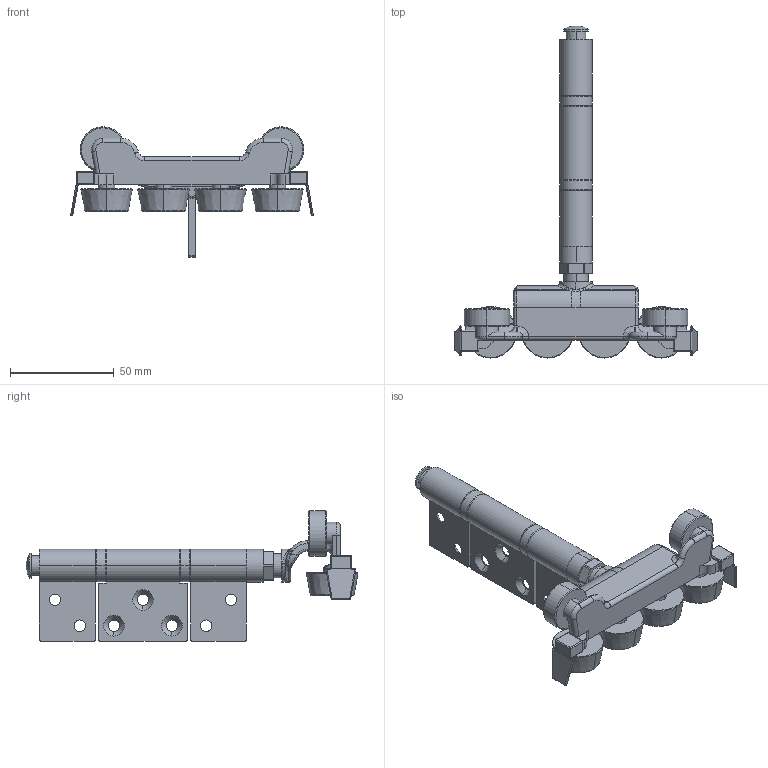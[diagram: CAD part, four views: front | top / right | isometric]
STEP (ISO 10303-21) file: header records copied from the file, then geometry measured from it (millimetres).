
FILE_DESCRIPTION (( 'STEP AP214' ), '1' );
FILE_NAME ('F3 Intermediate carrier - Closed 05Jun2024.STEP', '2024-07-05T01:40:53', ( '' ), ( '' ), 'SwSTEP 2.0', 'SolidWorks 2023', '' );
FILE_SCHEMA (( 'AUTOMOTIVE_DESIGN' ));
Length unit declared in the file: millimetre
Products named in the file (5): Straight flap top; Straight flap middle; Straight flap bottom; F3 Intermediate carrier - Closed 05Jun2024; F3 Intermediate carrier
Assembly tree (4 placements, depth 2):
  F3 Intermediate carrier - Closed 05Jun2024
    F3 Intermediate carrier
    Straight flap top
    Straight flap middle
    Straight flap bottom
Bounding box: 117.1 x 160.35 x 63 mm (x, y, z)
Volume: 73108.6 mm3; surface area: 37390.8 mm2
Topology: 4 solids, 4 shells, 394 faces, 958 edges, 564 vertices
Faces by surface type: cylinder 160, plane 94, cone 54, bspline 30, sphere 28, torus 28
Entity records: 12366 total; most frequent: CARTESIAN_POINT 3162, DIRECTION 2019, ORIENTED_EDGE 1856, EDGE_CURVE 928, AXIS2_PLACEMENT_3D 814, VERTEX_POINT 556, CIRCLE 443, EDGE_LOOP 428
